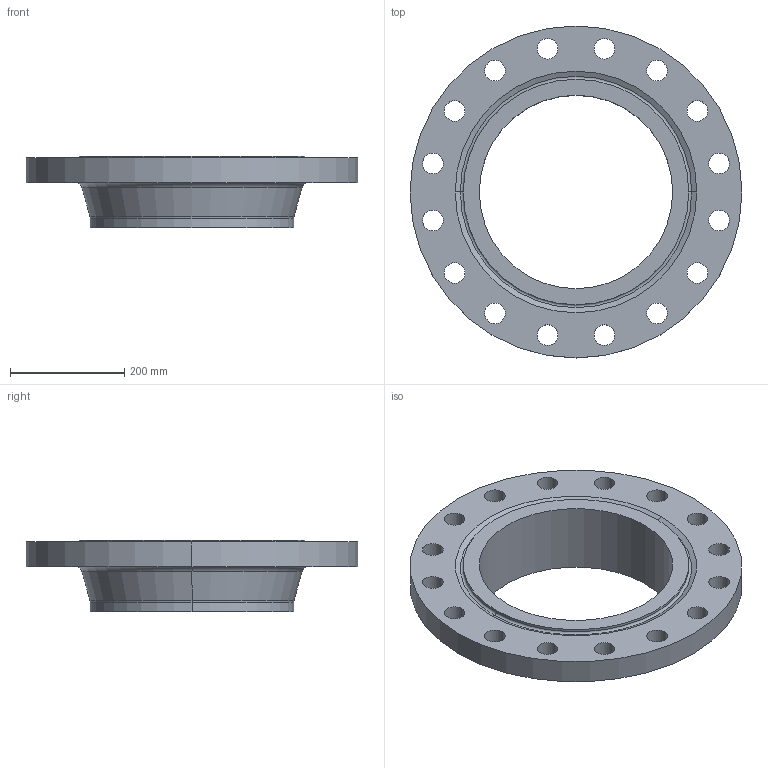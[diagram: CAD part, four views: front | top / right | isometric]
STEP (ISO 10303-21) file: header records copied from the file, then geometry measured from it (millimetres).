
FILE_DESCRIPTION (( 'STEP AP214' ), '1' );
FILE_NAME ('PN40 DN350 Type 11 - Type H Face.STEP', '2019-01-05T21:52:30', ( '' ), ( '' ), 'SwSTEP 2.0', 'SolidWorks 2019', '' );
FILE_SCHEMA (( 'AUTOMOTIVE_DESIGN' ));
Length unit declared in the file: millimetre
Products named in the file (1): PN40 DN350 Type 11 - Type H Face
Bounding box: 580 x 580 x 125 mm (x, y, z)
Volume: 8219100.3 mm3; surface area: 685930.8 mm2
Topology: 1 solids, 1 shells, 54 faces, 140 edges, 90 vertices
Faces by surface type: cylinder 40, torus 6, cone 4, plane 4
Entity records: 1802 total; most frequent: DIRECTION 346, CARTESIAN_POINT 285, ORIENTED_EDGE 280, AXIS2_PLACEMENT_3D 151, EDGE_CURVE 140, CIRCLE 96, VERTEX_POINT 90, EDGE_LOOP 90
